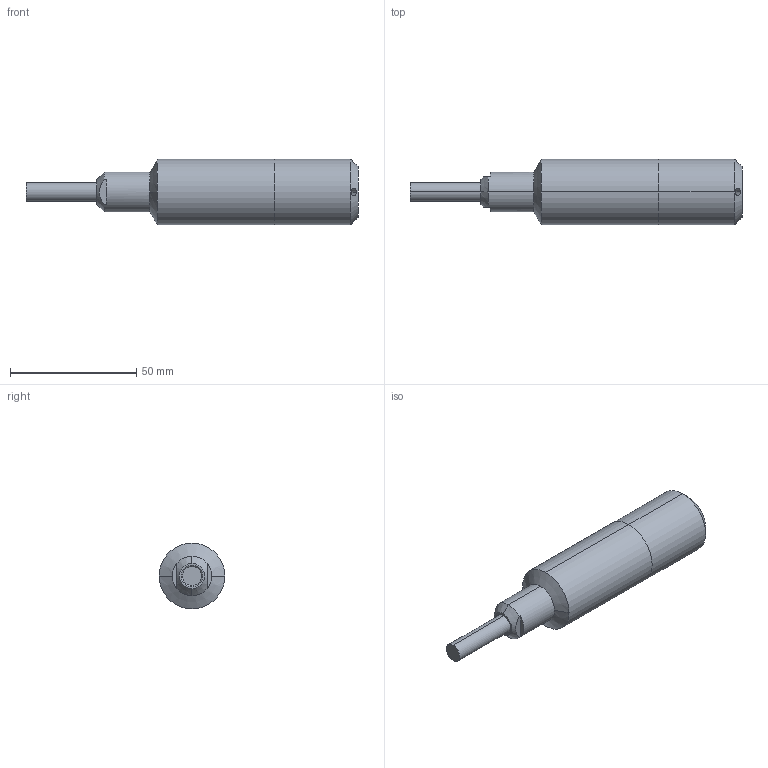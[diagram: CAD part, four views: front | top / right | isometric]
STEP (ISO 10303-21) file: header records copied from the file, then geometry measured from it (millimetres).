
FILE_DESCRIPTION (( 'STEP AP214' ), '1' );
FILE_NAME ('LD36-XXXX.STEP', '2025-09-04T19:10:50', ( '' ), ( '' ), 'SwSTEP 2.0', 'SolidWorks 2013', '' );
FILE_SCHEMA (( 'AUTOMOTIVE_DESIGN' ));
Length unit declared in the file: inch
Products named in the file (1): LD36-XXXX
Bounding box: 131.5 x 26 x 26 mm (x, y, z)
Volume: 47125.8 mm3; surface area: 11248 mm2
Topology: 2 solids, 2 shells, 45 faces, 106 edges, 62 vertices
Faces by surface type: cylinder 24, plane 13, cone 8
Entity records: 2152 total; most frequent: CARTESIAN_POINT 512, DIRECTION 212, ORIENTED_EDGE 212, EDGE_CURVE 106, AXIS2_PLACEMENT_3D 86, VERTEX_POINT 62, DIMENSIONAL_EXPONENTS 49, UNCERTAINTY_MEASURE_WITH_UNIT 49
